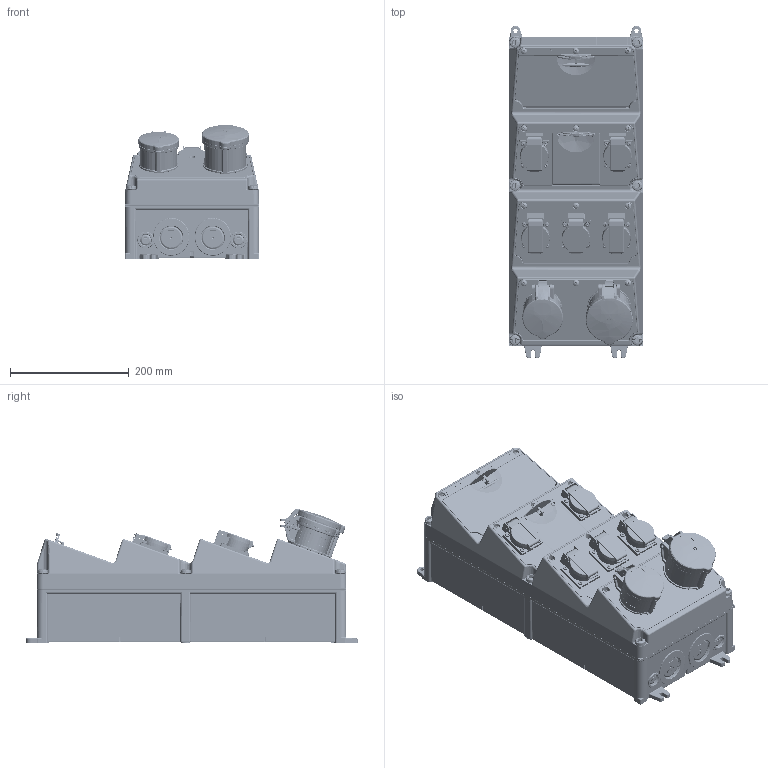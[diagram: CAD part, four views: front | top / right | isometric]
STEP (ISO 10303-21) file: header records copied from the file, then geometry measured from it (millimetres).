
FILE_DESCRIPTION((''),'2;1');
FILE_NAME('940215-1_ASM_1_ASM','2018-06-12T',('prakek'),('MENNEKES'),'PRO/ENGINEER BY PARAMETRIC TECHNOLOGY CORPORATION, 2015440','PRO/ENGINEER BY PARAMETRIC TECHNOLOGY CORPORATION, 2015440','');
FILE_SCHEMA(('AUTOMOTIVE_DESIGN { 1 0 10303 214 1 1 1 1 }'));
Products named in the file (16): 4-4_SW_O_GRAU_1; MP_FEN10_44_OBEN_GRAU_1; MP_FEN4_44_OBEN_GRAU_1; MP_LEER_GRAU_1; MANIFOLD_SOLID_BREP_357452; MANIFOLD_SOLID_BREP_445815; MANIFOLD_SOLID_BREP_446152; MANIFOLD_SOLID_BREP_448631; FI_4POL_4TE_1_ASM; LS_3POL_3TE_1; LS_1POL_1TE_1; AMAXX_CEE_32_5_44_ROT_1; SCHUKO_CH_T25_54_ROT_1; AMAXX_CEE_16_5_44_ROT_1; SCHUKO_CH_T23_54_BLAU_1; 940215-1_ASM_1_ASM
Assembly tree (21 placements, depth 3):
  940215-1_ASM_1_ASM
    4-4_SW_O_GRAU_1
    MP_FEN10_44_OBEN_GRAU_1
    MP_FEN4_44_OBEN_GRAU_1
    MP_LEER_GRAU_1  x2
    FI_4POL_4TE_1_ASM
      MANIFOLD_SOLID_BREP_357452
      MANIFOLD_SOLID_BREP_445815
      MANIFOLD_SOLID_BREP_446152
      MANIFOLD_SOLID_BREP_448631
    LS_3POL_3TE_1  x3
    LS_1POL_1TE_1
    AMAXX_CEE_32_5_44_ROT_1
    SCHUKO_CH_T25_54_ROT_1  x3
    AMAXX_CEE_16_5_44_ROT_1
    SCHUKO_CH_T23_54_BLAU_1  x2
Bounding box: 225 x 558.2 x 225.76 mm (x, y, z)
Volume: 13626165.1 mm3; surface area: 1440873.1 mm2
Topology: 20 solids, 20 shells, 14826 faces, 41175 edges, 26310 vertices
Faces by surface type: plane 6976, cylinder 4352, bspline 1258, torus 1233, cone 572, sphere 303, extrusion 132
Entity records: 570555 total; most frequent: CARTESIAN_POINT 165630, ORIENTED_EDGE 66310, DIRECTION 58096, EDGE_CURVE 33155, VERTEX_POINT 21166, AXIS2_PLACEMENT_3D 20230, PRESENTATION_STYLE_ASSIGNMENT 18780, VECTOR 17636
